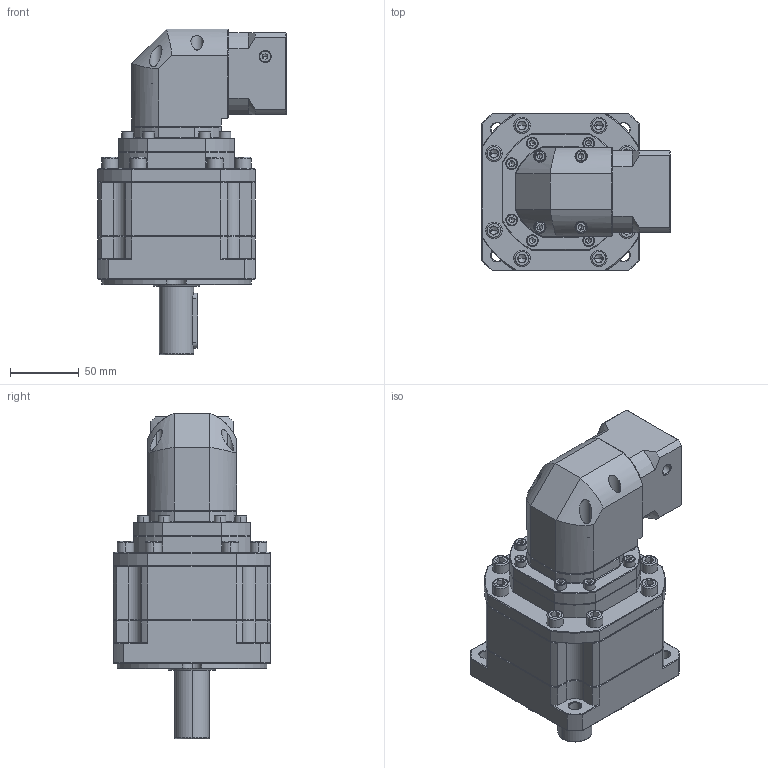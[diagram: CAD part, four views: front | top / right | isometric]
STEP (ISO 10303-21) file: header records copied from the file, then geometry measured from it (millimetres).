
FILE_DESCRIPTION (( 'STEP AP214' ), '1' );
FILE_NAME ('ZBR115A-D25-L3-P2-11-50-70-M5.step', '2023-08-26T14:05:03', ( '' ), ( '' ), 'SwSTEP 2.0', 'SolidWorks 2016', '' );
FILE_SCHEMA (( 'AUTOMOTIVE_DESIGN' ));
Length unit declared in the file: millimetre
Products named in the file (1): ZBR115A-D25-L3-P2-11-50-70-M5
Bounding box: 137.7 x 115 x 237.5 mm (x, y, z)
Volume: 1551402.3 mm3; surface area: 145065.2 mm2
Topology: 6 solids, 6 shells, 2636 faces, 6948 edges, 4432 vertices
Faces by surface type: plane 1299, cylinder 485, bspline 443, cone 389, torus 20
Entity records: 136697 total; most frequent: CARTESIAN_POINT 46064, ORIENTED_EDGE 13772, DIRECTION 11216, EDGE_CURVE 6886, VERTEX_POINT 4432, VECTOR 4364, LINE 4364, AXIS2_PLACEMENT_3D 3426
